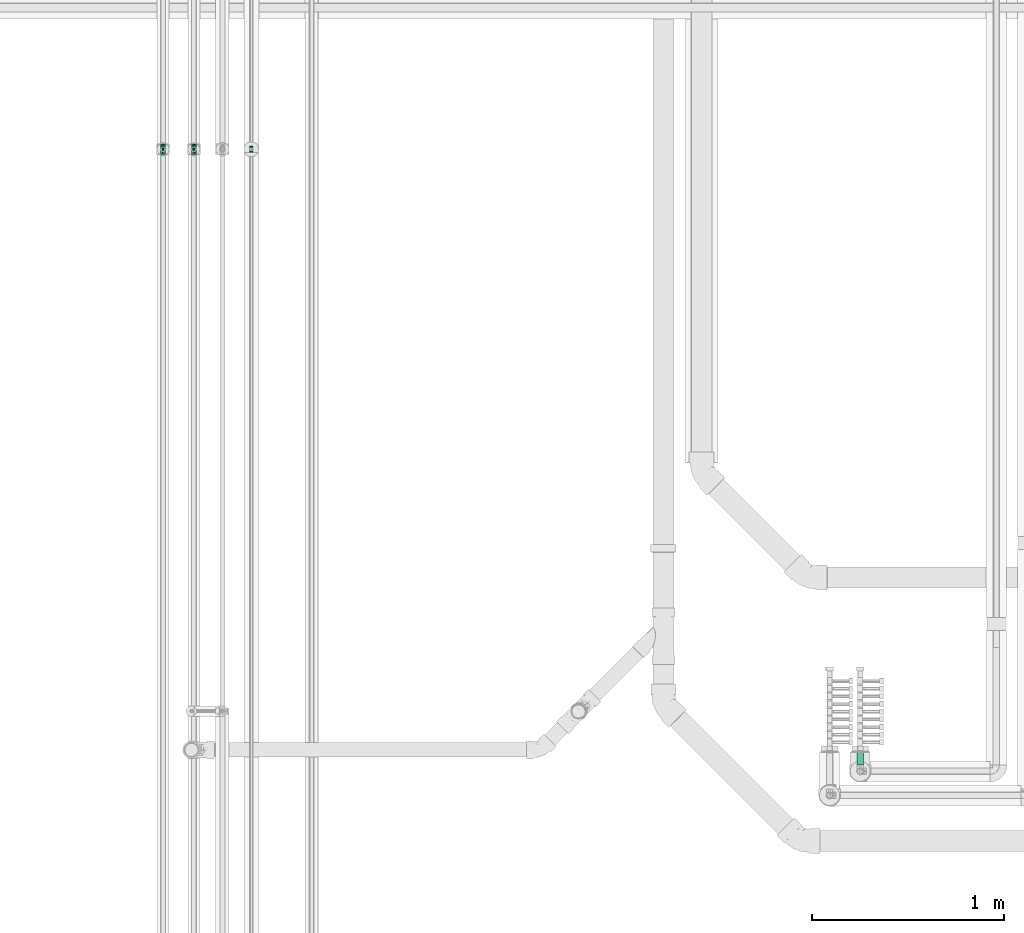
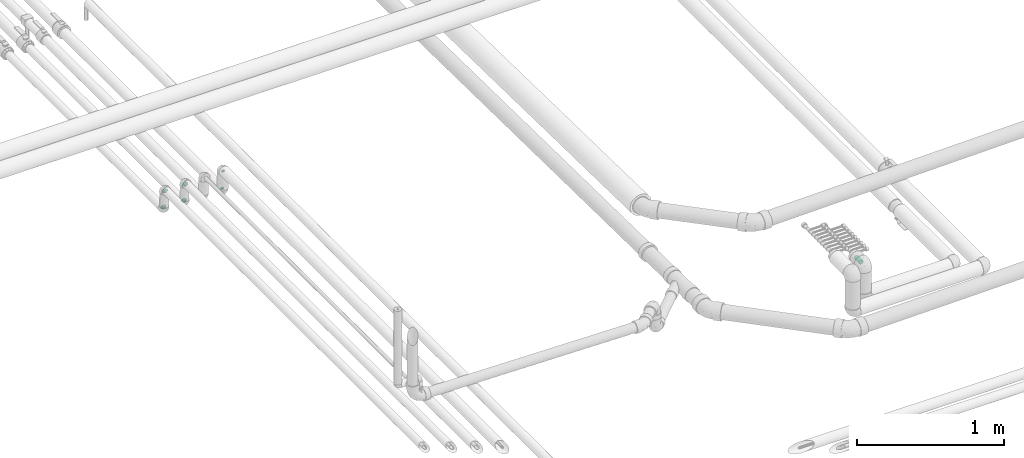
# One storey, part 44 of 83: 6 flow fittings, 1 flow segment.
"""IFC2X3 building model written with IfcOpenShell, lengths in millimetres."""

from ifc_helpers import new_model, entity, si_unit, converted_unit, derived_unit, direction, frame, origin_with_axes, origin_2d_with_axis, place, context, subcontext, project, spatial, hollow_circle, extrude, open_shell, surface_model, source, transform, mapped, type_object, element, save


model = new_model("IFC2X3")

# Units and contexts
model_context = context("Model", 3, precision=0.01, world=frame((0.0, 4.29681676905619e-09, 0.0)), true_north=direction((4.01073788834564e-13, 1.0)))
plan_context = context("Plan", 3, precision=0.01, world=frame((0.0, 4.29681676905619e-09, 0.0)), true_north=direction((4.01073788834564e-13, 1.0)))
body_context = subcontext(model_context, "Body", "Model", "MODEL_VIEW")
ifc_project = project(units=[converted_unit("PLANEANGLEUNIT", "DEGREE", entity("IfcPositiveLengthMeasure", 0.0174532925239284), si_unit("PLANEANGLEUNIT", "RADIAN"), dimensions=[0, 0, 0, 0, 0, 0, 0]), si_unit("AREAUNIT", "SQUARE_METRE"), si_unit("LENGTHUNIT", "METRE", prefix="MILLI"), si_unit("MASSUNIT", "GRAM", prefix="KILO"), si_unit("POWERUNIT", "WATT"), si_unit("PRESSUREUNIT", "PASCAL"), si_unit("FORCEUNIT", "NEWTON", prefix="KILO"), si_unit("ELECTRICVOLTAGEUNIT", "VOLT"), si_unit("ELECTRICCURRENTUNIT", "AMPERE"), si_unit("THERMODYNAMICTEMPERATUREUNIT", "DEGREE_CELSIUS"), si_unit("TIMEUNIT", "SECOND"), si_unit("VOLUMEUNIT", "CUBIC_METRE"), derived_unit("LINEARVELOCITYUNIT", [(si_unit("LENGTHUNIT", "METRE"), 1), (si_unit("TIMEUNIT", "SECOND"), -1)]), derived_unit("VOLUMETRICFLOWRATEUNIT", [(si_unit("VOLUMEUNIT", "CUBIC_METRE"), 1), (si_unit("TIMEUNIT", "SECOND"), -1)]), derived_unit("THERMALTRANSMITTANCEUNIT", [(si_unit("POWERUNIT", "WATT"), 1), (si_unit("THERMODYNAMICTEMPERATUREUNIT", "KELVIN"), -1), (si_unit("AREAUNIT", "SQUARE_METRE"), -1)]), derived_unit("SOUNDPRESSUREUNIT", [(si_unit("PRESSUREUNIT", "PASCAL"), 1)])], contexts=[model_context, plan_context])

# Site, building, storey
site_placement = place(None, frame((0.0, -4.29681676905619e-09, 0.0), z_axis=(0.0, 0.0, 1.0), x_axis=(1.0, 0.0, 0.0)))
site = spatial("IfcSite", under=ifc_project, at=site_placement, Name="ENGM", CompositionType="ELEMENT")
building_placement = place(site_placement, frame((0.0, 4.29681676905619e-09, 0.0), z_axis=(0.0, 0.0, 1.0), x_axis=(1.0, 0.0, 0.0)))
building = spatial("IfcBuilding", under=site, at=building_placement, Name="TI", CompositionType="ELEMENT")
storey_placement = place(building_placement, frame((0.0, 0.0, 204000.0), z_axis=(0.0, 0.0, 1.0), x_axis=(1.0, 0.0, 0.0)))
storey = spatial("IfcBuildingStorey", under=building, at=storey_placement, Name="Nivå D", CompositionType="ELEMENT", Elevation=204000.0)

# Flow fittings
pipe_fitting_type_1 = type_object("IfcPipeFittingType", Name="magi_pipe_fe_elbow_short_001", PredefinedType="BEND")
shared_shape_1 = source(origin_with_axes(), body_context, "Body", "SurfaceModel", [
    surface_model("IfcShellBasedSurfaceModel", [(-26.8, 3.46818, -12.94341), (-26.8, 0.0, -13.4), (-26.8, 9.47523, -9.47523), (-26.8, 6.7, -11.60474), (-26.8, 12.94341, -3.46818), (-26.8, 11.60474, -6.7), (-26.8, -6.7, 11.60474), (-26.8, -12.94341, -3.46818), (-26.8, -9.47523, -9.47523), (-26.8, -6.7, -11.60474), (-26.8, -3.46818, -12.94341), (-26.8, -11.60474, -6.7), (-26.8, -13.4, 0.0), (-26.8, 9.47523, 9.47523), (-26.8, 12.94341, 3.46818), (-26.8, 11.60474, 6.7), (-26.8, 3.46818, 12.94341), (-26.8, 6.7, 11.60474), (-26.8, -11.60474, 6.7), (-26.8, -9.47523, 9.47523), (-26.8, -12.94341, 3.46818), (-26.8, -3.46818, 12.94341), (-26.8, 0.0, 13.4), (-26.8, 13.4, 0.0), (-9.47523, 26.8, -9.47523), (0.0, 26.8, -13.4), (-3.46818, 26.8, -12.94341), (-6.7, 26.8, -11.60474), (-11.60474, 26.8, -6.7), (-12.94341, 26.8, -3.46818), (12.94341, 26.8, -3.46818), (6.7, 26.8, 11.60474), (6.7, 26.8, -11.60474), (9.47523, 26.8, -9.47523), (3.46818, 26.8, -12.94341), (11.60474, 26.8, -6.7), (13.4, 26.8, 0.0), (-12.94341, 26.8, 3.46818), (-9.47523, 26.8, 9.47523), (-11.60474, 26.8, 6.7), (-6.7, 26.8, 11.60474), (-3.46818, 26.8, 12.94341), (12.94341, 26.8, 3.46818), (9.47523, 26.8, 9.47523), (11.60474, 26.8, 6.7), (3.46818, 26.8, 12.94341), (0.0, 26.8, 13.4), (-13.4, 26.8, 0.0), (-17.94383, -11.72186, 4.19396), (-19.61933, -10.40522, 7.51874), (-14.00394, -9.97131, 0.0), (-10.88146, -9.75217, 2.96415), (5.6402, 4.14256, 4.06277), (2.9355, 3.86758, 7.99817), (-0.16552, -0.70254, 6.90229), (-11.69279, -8.47867, 6.74741), (-3.60975, -5.23517, 4.12915), (-20.40197, -11.68565, 0.0), (6.07727, 10.7767, 9.16668), (7.71917, 17.5318, 9.98024), (3.23022, 10.34855, 11.14395), (-17.5318, -7.71917, 9.98024), (-19.6814, -5.06542, 12.05518), (-20.47091, -1.77513, 13.17083), (-18.76435, 2.05404, 13.37716), (-10.34855, -3.23022, 11.14395), (-13.34095, -0.12025, 12.98799), (-20.6562, 5.25542, 12.65822), (-21.01515, 11.15223, 8.78653), (-19.1981, 14.0055, 6.12639), (-23.45804, 12.58298, 5.55254), (-13.79572, 19.62699, 6.0655), (-4.65712, 13.17755, 13.37596), (-9.92557, 9.92557, 13.07441), (-7.97904, 5.85569, 13.33097), (-14.12498, 14.96497, 9.49183), (-23.18377, 8.11481, 10.91864), (-3.49778, 8.97497, 13.15743), (-6.65819, 2.45826, 12.5129), (-1.36893, 7.23965, 12.31444), (-22.3163, 13.71444, 3.37662), (-20.76788, 15.89859, 0.0), (-5.00198, 23.11411, 12.55149), (-1.83653, 20.04451, 13.36709), (5.06542, 19.6814, 12.05518), (-4.60225, -3.19632, 8.30444), (-2.39362, 2.39362, 10.95564), (1.77513, 20.47091, 13.17083), (10.40522, 19.61933, 7.51874), (8.47867, 11.69279, 6.74741), (11.72186, 17.94383, 4.19396), (-10.7767, -6.07727, 9.16668), (-14.71477, 20.20527, 3.11661), (-18.32912, 15.92283, 3.19527), (9.75217, 10.88146, 2.96415), (9.97131, 14.00394, 0.0), (11.68565, 20.40197, 0.0), (-17.32477, 17.32477, 0.0), (8.01422, 6.7, 0.0), (-11.0099, 17.80242, 10.25412), (-8.46783, 20.75346, 11.10693), (-11.06207, 21.36651, 8.74797), (-10.13559, 14.48567, 11.94159), (-5.79525, 18.15733, 12.76163), (-14.31139, 12.02432, 11.13575), (-6.7, -8.01422, 0.0), (-14.72492, 5.73985, 13.1602), (-13.14892, 3.28357, 13.39428), (-14.24576, 9.09225, 12.39421), (-7.80572, 13.90987, 12.83655), (0.12025, 13.34095, 12.98799), (-18.45241, 9.09615, 11.28418), (-1.02036, 0.84565, 9.15855), (-3.66591, -4.13183, 6.30134), (-3.02144, -4.33567, 0.0), (1.56761, -1.1228, 3.23127), (-15.89859, 20.76788, 0.0), (4.33567, 3.02144, 0.0), (0.65711, -0.65711, 0.0), (-21.21323, 1.69434, -13.35639), (-11.59215, 19.61477, -8.94181), (-19.9553, -12.05444, -4.41231), (-20.61911, 5.26132, -12.65979), (-18.29002, 15.89425, -3.37935), (-10.94714, -3.38176, -11.24231), (-11.6358, -0.16715, -12.74497), (-5.38395, -0.22423, -10.97991), (-19.45447, 8.78609, -11.20697), (-21.18665, 11.10723, -8.76769), (8.05635, 19.80434, -10.14754), (-16.16073, 12.27967, -10.10626), (-10.65974, -9.81032, -2.24682), (-4.63434, -6.26604, -3.21731), (-12.41035, 15.57424, -10.31822), (-9.54276, 16.38525, -11.6371), (-12.38435, 12.38435, -11.76567), (-1.18054, -2.52878, -5.66699), (1.17703, 2.36499, -8.51656), (4.94456, 3.94062, -5.27361), (-13.23013, 7.7548, -12.95755), (-18.92609, -10.30887, -7.4546), (-19.80434, -8.05635, -10.14754), (-5.46999, 19.49566, -12.70683), (12.05444, 19.9553, -4.41231), (-22.63124, -5.28269, -12.19553), (-11.57403, -7.91736, -7.4927), (-10.00514, -5.4662, -9.37392), (0.56412, 6.29454, -11.17498), (0.16715, 11.6358, -12.74497), (2.76952, 11.43973, -11.70622), (-22.71135, 13.83144, -2.294), (-13.13887, 21.26515, -5.84046), (-14.02683, 21.74629, -2.98452), (10.30887, 18.92609, -7.4546), (-4.73052, 4.73052, -12.6532), (-16.28385, 15.93209, -6.57302), (-1.69434, 21.21323, -13.35639), (-8.4106, 21.03687, -11.08508), (1.68957, 19.74249, -13.15499), (5.28269, 22.63124, -12.19553), (-19.74249, -1.68957, -13.15499), (-16.96978, -4.62448, -11.91765), (-3.16773, 14.76219, -13.39711), (-7.24575, 7.81916, -13.39239), (-7.92886, 12.7032, -13.00116), (-6.57993, -6.26304, -6.05124), (9.46363, 9.95483, -2.39006), (6.59847, 4.89531, -2.6225), (0.29079, -2.47661, -2.876), (-21.42347, 13.17132, -5.65321), (9.35918, 11.66841, -5.08525), (8.33374, 12.94014, -7.69724), (5.4662, 10.00514, -9.37392), (4.62448, 16.96978, -11.91765), (-3.89324, -2.60816, -8.35445), (5.97121, 7.49007, -7.29975), (-14.76219, 3.16773, -13.39711), (-15.36238, 22.06238, 0.0), (-11.66841, -9.35918, -5.08525), (3.63632, 1.19488, -3.35093), (-14.94382, 15.17624, -8.6945)], [open_shell([[[0, 1, 2]], [[3, 0, 2]], [[4, 5, 2]], [[1, 4, 2]], [[6, 1, 7]], [[8, 7, 9]], [[1, 10, 9]], [[11, 7, 8]], [[9, 7, 1]], [[12, 6, 7]], [[4, 1, 6]], [[13, 14, 4]], [[15, 14, 13]], [[16, 17, 13]], [[13, 4, 16]], [[4, 6, 16]], [[18, 19, 20]], [[19, 12, 20]], [[6, 21, 16]], [[19, 6, 12]], [[16, 21, 22]], [[23, 4, 14]], [[24, 25, 26]], [[24, 26, 27]], [[24, 28, 29]], [[24, 29, 25]], [[30, 25, 31]], [[32, 30, 33]], [[32, 34, 25]], [[33, 30, 35]], [[25, 30, 32]], [[30, 31, 36]], [[31, 25, 29]], [[29, 37, 38]], [[38, 37, 39]], [[38, 40, 41]], [[41, 29, 38]], [[41, 31, 29]], [[42, 43, 44]], [[42, 36, 43]], [[41, 45, 31]], [[36, 31, 43]], [[46, 45, 41]], [[37, 29, 47]], [[48, 49, 18]], [[48, 50, 51]], [[52, 53, 54]], [[55, 51, 56]], [[49, 19, 18]], [[57, 48, 20]], [[58, 59, 60]], [[61, 6, 19]], [[61, 62, 6]], [[22, 63, 64]], [[62, 65, 66]], [[59, 43, 31]], [[22, 21, 63]], [[67, 17, 16]], [[68, 69, 70]], [[39, 37, 71]], [[72, 73, 74]], [[69, 68, 75]], [[22, 64, 16]], [[17, 76, 13]], [[15, 13, 68]], [[77, 78, 79]], [[80, 81, 23]], [[41, 82, 83]], [[31, 84, 59]], [[85, 86, 65]], [[45, 46, 87]], [[88, 89, 90]], [[91, 65, 61]], [[46, 41, 83]], [[71, 92, 93]], [[90, 94, 95]], [[84, 31, 45]], [[88, 90, 44]], [[59, 84, 60]], [[42, 44, 90]], [[75, 71, 69]], [[6, 62, 21]], [[90, 96, 42]], [[97, 81, 93]], [[94, 98, 95]], [[92, 97, 93]], [[50, 48, 57]], [[70, 14, 15]], [[99, 100, 101]], [[38, 101, 100]], [[40, 38, 100]], [[102, 103, 100]], [[103, 72, 83]], [[82, 100, 103]], [[82, 41, 40]], [[99, 104, 102]], [[23, 14, 80]], [[67, 16, 64]], [[51, 50, 105]], [[48, 18, 20]], [[49, 55, 61]], [[44, 43, 88]], [[89, 52, 94]], [[106, 107, 74]], [[108, 67, 106]], [[38, 39, 101]], [[109, 102, 73]], [[103, 109, 72]], [[87, 83, 110]], [[76, 68, 13]], [[68, 111, 104]], [[65, 62, 61]], [[63, 62, 66]], [[91, 61, 55]], [[65, 86, 78]], [[87, 84, 45]], [[110, 79, 60]], [[110, 60, 84]], [[86, 112, 60]], [[55, 49, 48]], [[61, 19, 49]], [[43, 59, 88]], [[89, 88, 59]], [[106, 67, 64]], [[76, 67, 111]], [[53, 52, 89]], [[112, 86, 85]], [[56, 113, 55]], [[112, 54, 53]], [[58, 89, 59]], [[56, 51, 105]], [[114, 115, 56]], [[14, 70, 80]], [[69, 71, 93]], [[47, 116, 92]], [[92, 116, 97]], [[39, 71, 101]], [[75, 101, 71]], [[99, 102, 100]], [[108, 104, 111]], [[106, 74, 73]], [[110, 83, 72]], [[78, 74, 66]], [[72, 74, 77]], [[83, 87, 46]], [[84, 87, 110]], [[62, 63, 21]], [[64, 63, 66]], [[20, 12, 57]], [[96, 90, 95]], [[96, 36, 42]], [[115, 117, 52]], [[56, 105, 114]], [[55, 48, 51]], [[89, 94, 90]], [[52, 98, 94]], [[106, 64, 107]], [[108, 106, 73]], [[102, 108, 73]], [[67, 108, 111]], [[102, 104, 108]], [[68, 104, 75]], [[64, 66, 107]], [[66, 74, 107]], [[65, 78, 66]], [[79, 78, 86]], [[60, 79, 86]], [[77, 79, 110]], [[72, 77, 110]], [[78, 77, 74]], [[67, 76, 17]], [[68, 76, 111]], [[100, 82, 40]], [[83, 82, 103]], [[68, 70, 15]], [[80, 69, 93]], [[69, 80, 70]], [[80, 93, 81]], [[55, 85, 91]], [[85, 65, 91]], [[60, 53, 58]], [[53, 89, 58]], [[54, 112, 85]], [[60, 112, 53]], [[85, 113, 54]], [[113, 115, 54]], [[55, 113, 85]], [[115, 113, 56]], [[71, 37, 92]], [[115, 114, 118]], [[47, 92, 37]], [[101, 75, 99]], [[99, 75, 104]], [[72, 109, 73]], [[103, 102, 109]], [[54, 115, 52]], [[117, 115, 118]], [[117, 98, 52]], [[0, 119, 1]], [[28, 24, 120]], [[121, 57, 7]], [[3, 122, 0]], [[97, 123, 81]], [[124, 125, 126]], [[127, 2, 128]], [[33, 129, 32]], [[127, 128, 130]], [[131, 132, 105]], [[133, 134, 135]], [[127, 3, 2]], [[136, 137, 138]], [[139, 122, 127]], [[2, 5, 128]], [[11, 140, 121]], [[141, 140, 8]], [[26, 142, 27]], [[95, 143, 96]], [[144, 9, 10]], [[145, 141, 146]], [[30, 36, 96]], [[147, 148, 149]], [[140, 11, 8]], [[23, 81, 150]], [[130, 133, 135]], [[151, 152, 29]], [[153, 35, 143]], [[147, 154, 148]], [[29, 28, 151]], [[120, 155, 151]], [[33, 153, 129]], [[25, 156, 26]], [[26, 156, 142]], [[143, 35, 30]], [[24, 27, 157]], [[123, 152, 155]], [[158, 34, 159]], [[144, 160, 161]], [[122, 3, 127]], [[148, 162, 158]], [[157, 27, 142]], [[162, 163, 164]], [[159, 34, 32]], [[165, 136, 132]], [[35, 153, 33]], [[166, 98, 167]], [[160, 10, 1]], [[161, 160, 125]], [[95, 166, 143]], [[50, 131, 105]], [[121, 7, 11]], [[168, 114, 132]], [[150, 169, 4]], [[167, 98, 117]], [[34, 158, 25]], [[164, 142, 162]], [[133, 157, 134]], [[8, 9, 141]], [[165, 145, 146]], [[170, 171, 153]], [[129, 172, 173]], [[126, 137, 174]], [[175, 137, 172]], [[148, 158, 173]], [[156, 158, 162]], [[149, 172, 147]], [[148, 154, 163]], [[119, 160, 1]], [[176, 163, 125]], [[176, 125, 160]], [[125, 154, 126]], [[169, 128, 5]], [[127, 130, 135]], [[139, 127, 135]], [[119, 122, 176]], [[120, 151, 28]], [[152, 97, 177]], [[142, 164, 134]], [[120, 24, 157]], [[152, 47, 29]], [[81, 123, 150]], [[123, 155, 169]], [[152, 123, 97]], [[140, 178, 121]], [[121, 178, 131]], [[144, 141, 9]], [[146, 141, 161]], [[30, 96, 143]], [[170, 153, 143]], [[129, 153, 171]], [[159, 129, 173]], [[137, 147, 172]], [[126, 154, 147]], [[172, 171, 175]], [[174, 137, 136]], [[137, 126, 147]], [[126, 146, 124]], [[117, 118, 179]], [[179, 138, 167]], [[128, 169, 155]], [[5, 4, 169]], [[57, 121, 50]], [[57, 12, 7]], [[122, 119, 0]], [[160, 119, 176]], [[158, 156, 25]], [[142, 156, 162]], [[162, 148, 163]], [[139, 135, 164]], [[125, 163, 154]], [[139, 163, 176]], [[163, 139, 164]], [[122, 139, 176]], [[155, 180, 128]], [[180, 120, 133]], [[180, 133, 130]], [[157, 133, 120]], [[142, 134, 157]], [[164, 135, 134]], [[128, 180, 130]], [[120, 180, 155]], [[152, 151, 155]], [[47, 152, 177]], [[169, 150, 123]], [[23, 150, 4]], [[121, 131, 50]], [[178, 165, 132]], [[178, 132, 131]], [[168, 132, 136]], [[145, 165, 178]], [[174, 165, 146]], [[178, 140, 145]], [[141, 145, 140]], [[179, 136, 138]], [[170, 166, 167]], [[168, 179, 118]], [[170, 167, 138]], [[143, 166, 170]], [[95, 98, 166]], [[117, 179, 167]], [[136, 179, 168]], [[129, 159, 32]], [[158, 159, 173]], [[160, 144, 10]], [[141, 144, 161]], [[175, 170, 138]], [[129, 171, 172]], [[170, 175, 171]], [[137, 175, 138]], [[148, 173, 149]], [[172, 149, 173]], [[165, 174, 136]], [[126, 174, 146]], [[146, 161, 124]], [[125, 124, 161]], [[114, 168, 118]], [[114, 105, 132]]])]),
])
for number, where, z_axis, x_axis, name in (
    (1, (599571.9743, 696607.72914, 6052.20000000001), (-1.0, 0.0, 0.0), (0.0, -1.0, 0.0), "magi_pipe_fe_elbow_short_001"),
    (2, (599571.9743, 696607.72914, 6220.0), (-1.0, 0.0, 0.0), (0.0, 1.0, 0.0), "magi_pipe_fe_elbow_short_001"),
    (3, (599732.2743, 696607.72915, 6052.40416000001), (-1.0, 0.0, 0.0), (0.0, -1.0, 0.0), "magi_pipe_fe_elbow_short_001"),
    (4, (599732.2743, 696607.72911, 6220.0), (-1.0, 0.0, 0.0), (0.0, 1.0, 0.0), "magi_pipe_fe_elbow_short_001"),
):
    element("IfcFlowFitting", number, at=place(storey_placement, frame(where, z_axis=z_axis, x_axis=x_axis)), inside=storey, type_object=pipe_fitting_type_1, Name=name, context=body_context, shape_type="MappedRepresentation", body=[
        mapped(shared_shape_1, transform((0.0, 0.0, 0.0), scale=1.0)),
    ])
pipe_fitting_type_2 = type_object("IfcPipeFittingType", Name="magi_pipe_cu_elbow_short_001", PredefinedType="BEND")
shared_shape_2 = source(origin_with_axes(), body_context, "Body", "SurfaceModel", [
    surface_model("IfcShellBasedSurfaceModel", [(-18.0, 4.5, -7.79423), (-18.0, 2.32937, -8.69333), (-18.0, 0.0, -9.0), (-18.0, -6.36396, -6.36396), (-18.0, 8.69333, -2.32937), (-18.0, 7.79423, -4.5), (-18.0, 6.36396, -6.36396), (-18.0, -4.5, -7.79423), (-18.0, -2.32937, -8.69333), (-18.0, -7.79423, -4.5), (-18.0, -8.69333, -2.32937), (-18.0, -9.0, 0.0), (-18.0, 8.69333, 2.32937), (-18.0, -7.79423, 4.5), (-18.0, 7.79423, 4.5), (-18.0, 6.36396, 6.36396), (-18.0, 2.32937, 8.69333), (-18.0, 4.5, 7.79423), (-18.0, 0.0, 9.0), (-18.0, -6.36396, 6.36396), (-18.0, -2.32937, 8.69333), (-18.0, -8.69333, 2.32937), (-18.0, -4.5, 7.79423), (-18.0, 9.0, 0.0), (0.0, 18.0, -9.0), (-2.32937, 18.0, -8.69333), (-4.5, 18.0, -7.79423), (6.36396, 18.0, -6.36396), (-6.36396, 18.0, -6.36396), (-7.79423, 18.0, -4.5), (-8.69333, 18.0, -2.32937), (9.0, 18.0, 0.0), (2.32937, 18.0, -8.69333), (4.5, 18.0, -7.79423), (8.69333, 18.0, -2.32937), (7.79423, 18.0, -4.5), (-8.69333, 18.0, 2.32937), (7.79423, 18.0, 4.5), (-6.36396, 18.0, 6.36396), (-7.79423, 18.0, 4.5), (-4.5, 18.0, 7.79423), (-2.32937, 18.0, 8.69333), (0.0, 18.0, 9.0), (2.32937, 18.0, 8.69333), (6.36396, 18.0, 6.36396), (8.69333, 18.0, 2.32937), (4.5, 18.0, 7.79423), (-9.0, 18.0, 0.0), (-16.09014, -8.48825, 0.0), (-10.51068, -2.97249, 7.92278), (-10.36056, -6.95302, 0.0), (-4.5, -5.38269, 0.0), (0.44134, -0.44134, 0.0), (2.91201, 2.02933, 0.0), (-2.70211, 1.18586, 7.65564), (-2.02933, -2.91201, 0.0), (-14.18028, -7.97651, 0.0), (-7.11648, 7.11648, 8.61373), (-4.93977, 9.63211, 8.64898), (2.97249, 10.51068, 7.92278), (2.01286, 5.84889, 7.1903), (5.38269, 4.5, 0.0), (-5.73616, -2.07922, 7.10204), (8.48825, 16.09014, 0.0), (7.97651, 14.18028, 0.0), (-9.63211, 4.93977, 8.64898), (-10.31802, 14.81802, 0.0), (-14.81802, 10.31802, 0.0), (-11.63604, 11.63604, 0.0), (6.95302, 10.36056, 0.0), (-10.51068, -2.97249, -7.92278), (-4.93977, 9.63211, -8.64898), (0.8585, 4.1248, -7.1903), (-2.68792, 2.14037, -8.03971), (2.97249, 10.51068, -7.92278), (-13.67048, 7.29638, -6.27272), (-8.50355, 2.18787, -8.98901), (-9.83427, 8.11209, -7.36254)], [open_shell([[[0, 1, 2]], [[0, 2, 3]], [[4, 5, 6]], [[0, 4, 6]], [[4, 0, 3]], [[7, 3, 8]], [[3, 2, 8]], [[9, 10, 3]], [[11, 3, 10]], [[3, 11, 4]], [[11, 12, 4]], [[13, 12, 11]], [[14, 12, 15]], [[16, 17, 15]], [[15, 12, 18]], [[16, 15, 18]], [[19, 20, 13]], [[13, 11, 21]], [[22, 20, 19]], [[18, 13, 20]], [[13, 18, 12]], [[23, 4, 12]], [[24, 25, 26]], [[27, 24, 26]], [[28, 29, 30]], [[28, 30, 26]], [[31, 26, 30]], [[32, 27, 33]], [[32, 24, 27]], [[27, 34, 35]], [[34, 27, 31]], [[26, 31, 27]], [[30, 36, 31]], [[31, 36, 37]], [[38, 36, 39]], [[38, 40, 41]], [[42, 36, 38]], [[42, 38, 41]], [[37, 43, 44]], [[45, 31, 37]], [[44, 43, 46]], [[43, 37, 42]], [[36, 42, 37]], [[36, 30, 47]], [[21, 48, 13]], [[49, 50, 51]], [[52, 53, 54]], [[54, 55, 52]], [[22, 19, 56]], [[13, 56, 19]], [[57, 54, 58]], [[22, 50, 20]], [[18, 20, 50]], [[59, 60, 61]], [[59, 58, 60]], [[55, 54, 62]], [[18, 50, 49]], [[18, 49, 16]], [[62, 49, 51]], [[62, 51, 55]], [[37, 63, 45]], [[49, 17, 16]], [[64, 63, 37]], [[12, 65, 23]], [[14, 15, 49]], [[54, 65, 62]], [[17, 49, 15]], [[58, 47, 66]], [[67, 57, 68]], [[53, 60, 54]], [[43, 42, 69]], [[69, 46, 43]], [[38, 59, 40]], [[41, 59, 42]], [[44, 46, 64]], [[68, 57, 66]], [[64, 46, 69]], [[61, 60, 53]], [[45, 63, 31]], [[59, 61, 69]], [[47, 58, 36]], [[22, 56, 50]], [[54, 57, 65]], [[49, 65, 14]], [[66, 57, 58]], [[64, 37, 44]], [[39, 36, 58]], [[14, 65, 12]], [[38, 39, 59]], [[21, 11, 48]], [[39, 58, 59]], [[48, 56, 13]], [[40, 59, 41]], [[59, 69, 42]], [[49, 62, 65]], [[57, 67, 65]], [[54, 60, 58]], [[67, 23, 65]], [[70, 50, 2]], [[71, 72, 73]], [[74, 71, 29]], [[70, 1, 0]], [[70, 51, 50]], [[34, 31, 63]], [[75, 6, 5]], [[75, 4, 23]], [[5, 4, 75]], [[51, 76, 55]], [[75, 23, 67]], [[70, 6, 75]], [[48, 11, 10]], [[7, 56, 3]], [[2, 50, 8]], [[51, 70, 76]], [[56, 7, 50]], [[7, 8, 50]], [[70, 2, 1]], [[66, 47, 71]], [[52, 72, 53]], [[6, 70, 0]], [[70, 75, 76]], [[73, 52, 55]], [[71, 68, 66]], [[61, 53, 72]], [[33, 64, 69]], [[30, 71, 47]], [[28, 74, 29]], [[56, 9, 3]], [[26, 25, 74]], [[63, 64, 35]], [[56, 48, 9]], [[26, 74, 28]], [[9, 48, 10]], [[24, 74, 25]], [[32, 69, 24]], [[29, 71, 30]], [[27, 64, 33]], [[69, 32, 33]], [[68, 71, 77]], [[74, 24, 69]], [[35, 34, 63]], [[61, 72, 74]], [[61, 74, 69]], [[67, 77, 75]], [[74, 72, 71]], [[35, 64, 27]], [[76, 77, 73]], [[75, 77, 76]], [[77, 71, 73]], [[55, 76, 73]], [[72, 52, 73]], [[77, 67, 68]]])]),
])
for number, where, z_axis, x_axis, name in (
    (5, (600031.9743, 696607.72914, 6220.0), (-1.0, 0.0, 0.0), (0.0, 1.0, 0.0), "magi_pipe_cu_elbow_short_001"),
    (6, (600031.9743, 696607.72914, 6052.20000000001), (1.0, 0.0, 0.0), (0.0, 0.0, -1.0), "magi_pipe_cu_elbow_short_001"),
):
    element("IfcFlowFitting", number, at=place(storey_placement, frame(where, z_axis=z_axis, x_axis=x_axis)), inside=storey, type_object=pipe_fitting_type_2, Name=name, context=body_context, shape_type="MappedRepresentation", body=[
        mapped(shared_shape_2, transform((0.0, 0.0, 0.0), scale=1.0)),
    ])

# Flow segment
pipe_segment_type = type_object("IfcPipeSegmentType", Name="Stålrør normaltykke", PredefinedType="RIGIDSEGMENT")
shared_shape_3 = source(origin_with_axes(), body_context, "Body", "SweptSolid", [
    extrude(hollow_circle(Radius=16.9, WallThickness=2.0, at=origin_2d_with_axis()), frame((0.0, 0.0, 0.0), z_axis=(1.0, 0.0, 0.0), x_axis=(0.0, 1.0, 0.0)), (0.0, 0.0, 1.0), 66.4),
])
flow_segment_placement = place(storey_placement, frame((603209.87398, 693395.06264, 6283.60000000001), z_axis=(0.0, 0.0, 1.0), x_axis=(0.0, 1.0, 0.0)))
element("IfcFlowSegment", 7, at=flow_segment_placement, inside=storey, type_object=pipe_segment_type, Name="Stålrør normaltykke", context=body_context, shape_type="MappedRepresentation", body=[
    mapped(shared_shape_3, transform((0.0, 0.0, 0.0), scale=1.0)),
])

save(model, "model.ifc")
